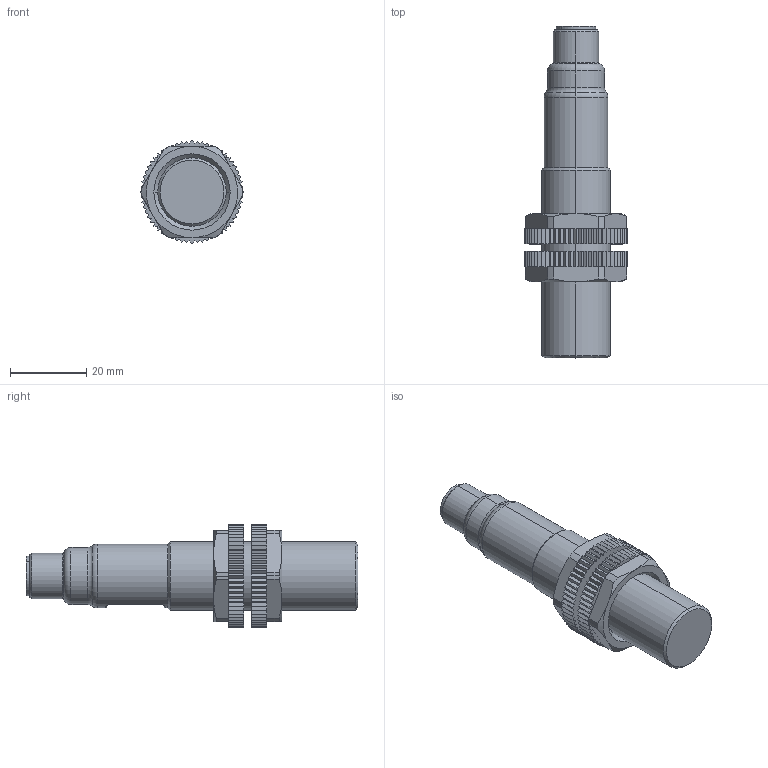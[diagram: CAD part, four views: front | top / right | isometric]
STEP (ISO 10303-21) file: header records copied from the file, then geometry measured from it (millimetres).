
FILE_DESCRIPTION (( 'STEP AP203' ), '1' );
FILE_NAME ('BCT-S18-X2T-H1.step', '2021-01-25T15:30:27', ( '' ), ( '' ), 'SwSTEP 2.0', 'SolidWorks 2019', '' );
FILE_SCHEMA (( 'CONFIG_CONTROL_DESIGN' ));
Length unit declared in the file: millimetre
Products named in the file (1): BCT-S18-X2T-H1
Bounding box: 26.98 x 87.3 x 26.98 mm (x, y, z)
Volume: 23032.6 mm3; surface area: 7340.4 mm2
Topology: 1 solids, 1 shells, 532 faces, 1473 edges, 951 vertices
Faces by surface type: plane 316, cylinder 164, cone 26, torus 18, bspline 8
Entity records: 17273 total; most frequent: CARTESIAN_POINT 3379, ORIENTED_EDGE 2946, DIRECTION 2884, EDGE_CURVE 1473, VECTOR 1016, LINE 1016, VERTEX_POINT 951, AXIS2_PLACEMENT_3D 934
